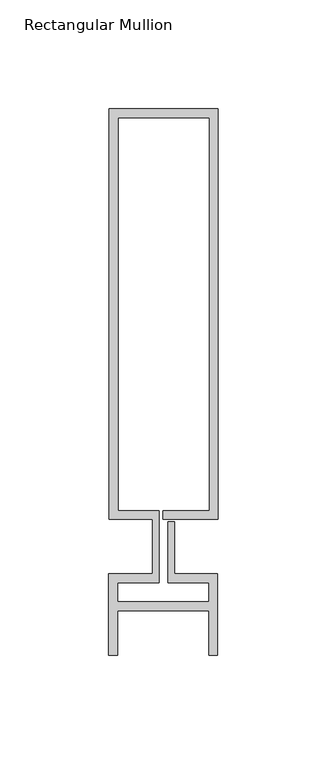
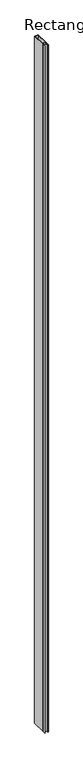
"""IFC4 building model written with IfcOpenShell, lengths in millimetres: member geometry, Rectangular Mullion : Reynaers_CW-50_Mullion-Transom_Vertical_188.5mm_Facecap-03."""

from ifc_helpers import new_model, si_unit, frame, origin, place, context, project, spatial, polyline, outline, extrude, source, transform, mapped, element, save


def rectangular_mullion_7e934bc7(model_context):
    return source(origin(), model_context, "Body", "SweptSolid", [
        extrude(outline(polyline([(-24.8004059, 201.0), (25.1995941, 201.0), (25.1995941, 12.5), (0.0, 12.5), (0.0, 16.5), (21.1995941, 16.5), (21.1995941, 197.0), (-20.8004059, 197.0), (-20.8004059, 16.5), (-1.9004059, 16.5), (-1.9004059, -16.5), (-20.994845, -16.5), (-20.994845, -25.3268728), (20.994845, -25.3268728), (20.994845, -16.5), (2.2995941, -16.5), (2.2995941, 11.5), (5.2995941, 11.5), (5.2995941, -12.5), (24.994845, -12.5), (24.994845, -49.8), (20.994845, -49.8), (20.994845, -29.3268728), (-20.994845, -29.3268728), (-20.994845, -49.8), (-24.994845, -49.8), (-24.994845, -12.5), (-4.9004059, -12.5), (-4.9004059, 12.5), (-24.8004059, 12.5), (-24.8004059, 201.0)])), frame((0.0, 0.0, -10400.0), z_axis=(0.0, 0.0, 1.0), x_axis=(1.0, 0.0, 0.0)), (0.0, 0.0, 1.0), 10400.0),
    ])


if __name__ == "__main__":
    model = new_model("IFC4")
    model_context = context("Model", 3, world=origin())
    ifc_project = project(units=[si_unit("LENGTHUNIT", "METRE", prefix="MILLI")], contexts=[model_context])
    site = spatial("IfcSite", under=ifc_project)
    building = spatial("IfcBuilding", under=site)
    placement = place(None, origin())
    rectangular_mullion_shape = rectangular_mullion_7e934bc7(model_context)
    element("IfcMember", 1, ObjectType="Rectangular Mullion : Reynaers_CW-50_Mullion-Transom_Vertical_188.5mm_Facecap-03", at=placement, inside=building, context=model_context, shape_type="MappedRepresentation", body=[
        mapped(rectangular_mullion_shape, transform((0.0, 0.0, 0.0), x_axis=(1.0, 0.0, 0.0), y_axis=(0.0, 1.0, 0.0), z_axis=(0.0, 0.0, 1.0))),
    ])
    save(model, "model.ifc")
